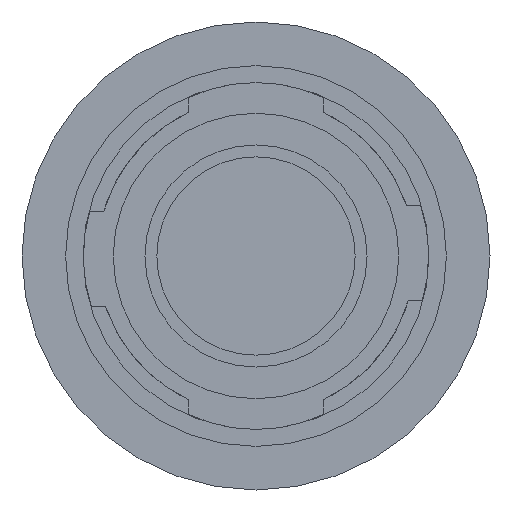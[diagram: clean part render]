
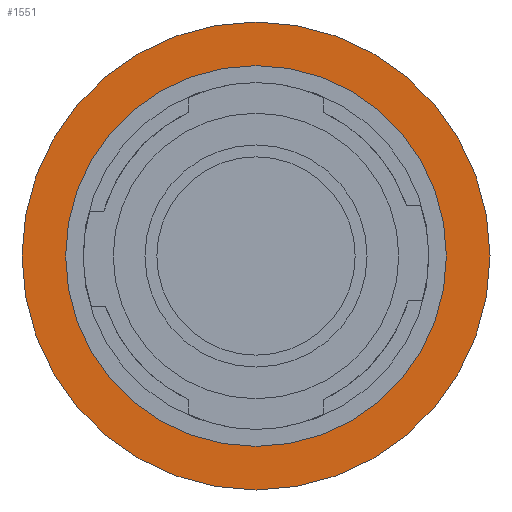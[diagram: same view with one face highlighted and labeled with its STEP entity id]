
A CAD part, front view. The second image highlights one B-rep face of the part: STEP entity #1551.
In plain terms, the highlighted planar face has unit normal (0, -1, 0).
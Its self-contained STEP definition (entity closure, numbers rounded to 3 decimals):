
#58 = EDGE_LOOP ( 'NONE', ( #2063, #1992 ) ) ;
#62 = EDGE_CURVE ( 'NONE', #2054, #1749, #1178, .T. ) ;
#175 = FACE_OUTER_BOUND ( 'NONE', #748, .T. ) ;
#182 = AXIS2_PLACEMENT_3D ( 'NONE', #2121, #448, #512 ) ;
#248 = EDGE_CURVE ( 'NONE', #2192, #969, #1770, .T. ) ;
#256 = CARTESIAN_POINT ( 'NONE',  ( 0., 15.2, 12. ) ) ;
#448 = DIRECTION ( 'NONE',  ( 0., 1., 0. ) ) ;
#458 = ORIENTED_EDGE ( 'NONE', *, *, #248, .F. ) ;
#485 = DIRECTION ( 'NONE',  ( 0., -1., 0. ) ) ;
#489 = CARTESIAN_POINT ( 'NONE',  ( 0., 15.2, 14.75 ) ) ;
#509 = AXIS2_PLACEMENT_3D ( 'NONE', #734, #845, #1927 ) ;
#512 = DIRECTION ( 'NONE',  ( 0., 0., -1. ) ) ;
#708 = DIRECTION ( 'NONE',  ( 0., 0., -1. ) ) ;
#734 = CARTESIAN_POINT ( 'NONE',  ( 0., 15.2, 0. ) ) ;
#748 = EDGE_LOOP ( 'NONE', ( #1063, #458 ) ) ;
#810 = CARTESIAN_POINT ( 'NONE',  ( 0., 15.2, 0. ) ) ;
#832 = CARTESIAN_POINT ( 'NONE',  ( 0., 15.2, 0. ) ) ;
#845 = DIRECTION ( 'NONE',  ( 0., -1., 0. ) ) ;
#906 = EDGE_CURVE ( 'NONE', #969, #2192, #1020, .T. ) ;
#969 = VERTEX_POINT ( 'NONE', #489 ) ;
#1006 = DIRECTION ( 'NONE',  ( 0., -1., 0. ) ) ;
#1020 = CIRCLE ( 'NONE', #1387, 14.75 ) ;
#1063 = ORIENTED_EDGE ( 'NONE', *, *, #906, .F. ) ;
#1178 = CIRCLE ( 'NONE', #509, 12. ) ;
#1180 = CIRCLE ( 'NONE', #1487, 12. ) ;
#1246 = CARTESIAN_POINT ( 'NONE',  ( 0., 15.2, -12. ) ) ;
#1387 = AXIS2_PLACEMENT_3D ( 'NONE', #810, #1591, #708 ) ;
#1487 = AXIS2_PLACEMENT_3D ( 'NONE', #1531, #485, #1693 ) ;
#1498 = AXIS2_PLACEMENT_3D ( 'NONE', #832, #1006, #2223 ) ;
#1531 = CARTESIAN_POINT ( 'NONE',  ( 0., 15.2, 0. ) ) ;
#1551 = ADVANCED_FACE ( 'NONE', ( #175, #1993 ), #1690, .T. ) ;
#1591 = DIRECTION ( 'NONE',  ( 0., 1., 0. ) ) ;
#1690 = PLANE ( 'NONE',  #1498 ) ;
#1693 = DIRECTION ( 'NONE',  ( 0., 0., -1. ) ) ;
#1702 = CARTESIAN_POINT ( 'NONE',  ( 0., 15.2, -14.75 ) ) ;
#1749 = VERTEX_POINT ( 'NONE', #1246 ) ;
#1770 = CIRCLE ( 'NONE', #182, 14.75 ) ;
#1927 = DIRECTION ( 'NONE',  ( 0., 0., -1. ) ) ;
#1992 = ORIENTED_EDGE ( 'NONE', *, *, #2141, .F. ) ;
#1993 = FACE_BOUND ( 'NONE', #58, .T. ) ;
#2054 = VERTEX_POINT ( 'NONE', #256 ) ;
#2063 = ORIENTED_EDGE ( 'NONE', *, *, #62, .F. ) ;
#2121 = CARTESIAN_POINT ( 'NONE',  ( 0., 15.2, 0. ) ) ;
#2141 = EDGE_CURVE ( 'NONE', #1749, #2054, #1180, .T. ) ;
#2192 = VERTEX_POINT ( 'NONE', #1702 ) ;
#2223 = DIRECTION ( 'NONE',  ( 0., 0., -1. ) ) ;
